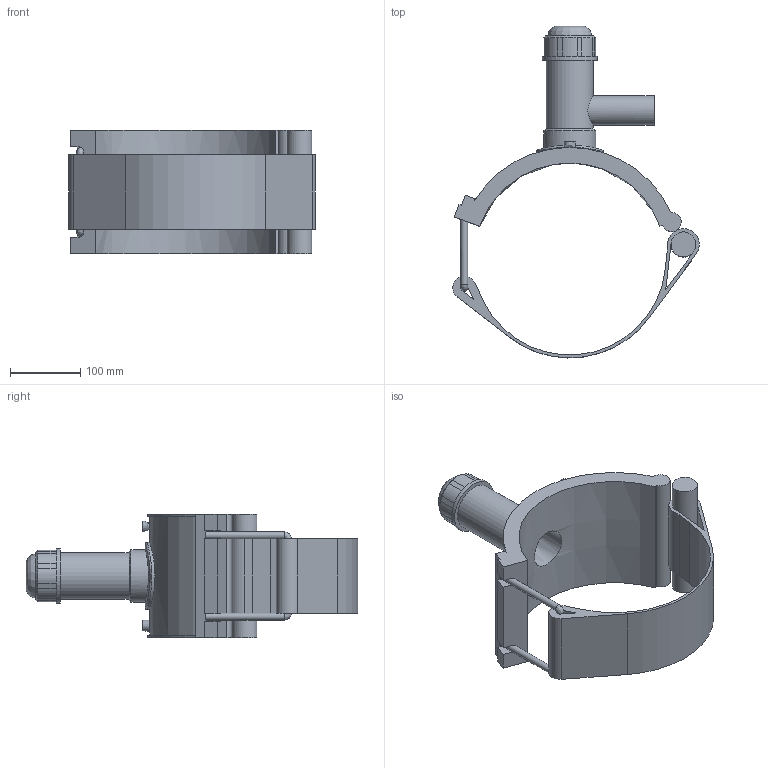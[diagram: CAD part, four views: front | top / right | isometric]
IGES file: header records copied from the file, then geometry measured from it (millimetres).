
Global section: file name: 5913BB03100013.ipt; native system: Autodesk Inventor 2019; preprocessor: unknown; author: KIM; date: 20210830.101042; units: millimetre
Bounding box: 350.33 x 471.58 x 176.02 mm (x, y, z)
Volume: 2353476.9 mm3; surface area: 412849.5 mm2
Topology: 2 solids, 2 shells, 124 faces, 314 edges, 195 vertices
Faces by surface type: plane 69, cylinder 29, revolution 12, cone 11, bspline 3
Full cylindrical faces by diameter (mm): 4 x2, 9.817 x2, 35.451 x1, 42.1 x1, 62.612 x1, 66.525 x1, 74.352 x1, 78.265 x1, 95.445 x1
